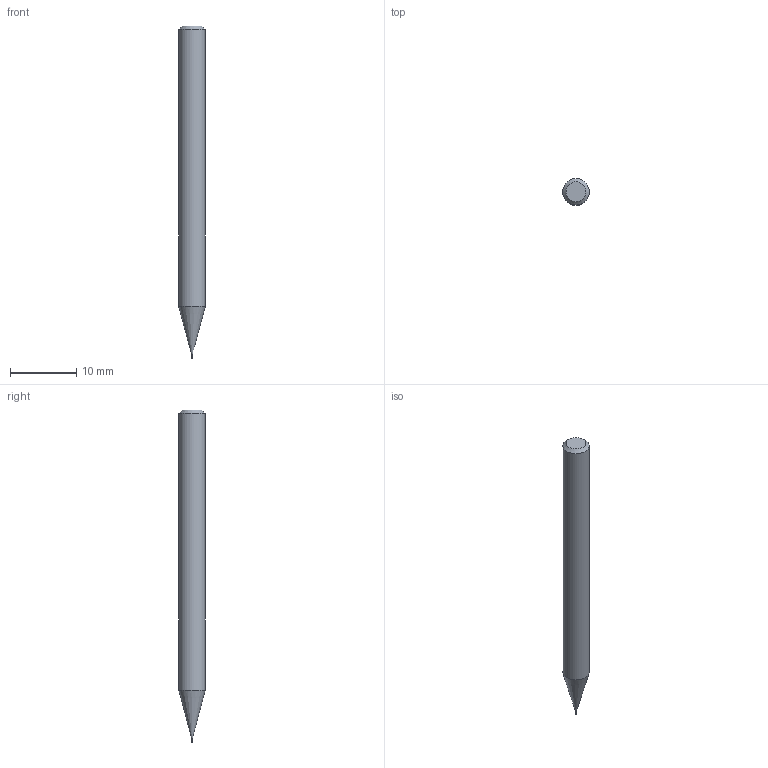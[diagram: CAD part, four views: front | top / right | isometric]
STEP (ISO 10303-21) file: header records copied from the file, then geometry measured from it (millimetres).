
FILE_DESCRIPTION((''),'2;1');
FILE_NAME('C:\Users\nsx150\AppData\Local\Temp\Mastercam 2021\LJSIDMOTM8\TEMP.step','2021-08-03T13:47:19',(''),(''),'STEP Write','Mastercam 2021 ... CNC Software, Inc.','');
FILE_SCHEMA(('AUTOMOTIVE_DESIGN'));
Length unit declared in the file: millimetre
Products named in the file (1): None
Bounding box: 4 x 4 x 50 mm (x, y, z)
Volume: 560.2 mm3; surface area: 587.6 mm2
Topology: 2 solids, 2 shells, 10 faces, 14 edges, 8 vertices
Faces by surface type: plane 4, cylinder 3, cone 2, torus 1
Full cylindrical faces by diameter (mm): 0.09 x1, 0.1 x1, 4 x1
Entity records: 232 total; most frequent: DIRECTION 40, CARTESIAN_POINT 28, AXIS2_PLACEMENT_3D 20, ORIENTED_EDGE 16, EDGE_LOOP 16, STYLED_ITEM 13, ADVANCED_FACE 10, FACE_BOUND 10
